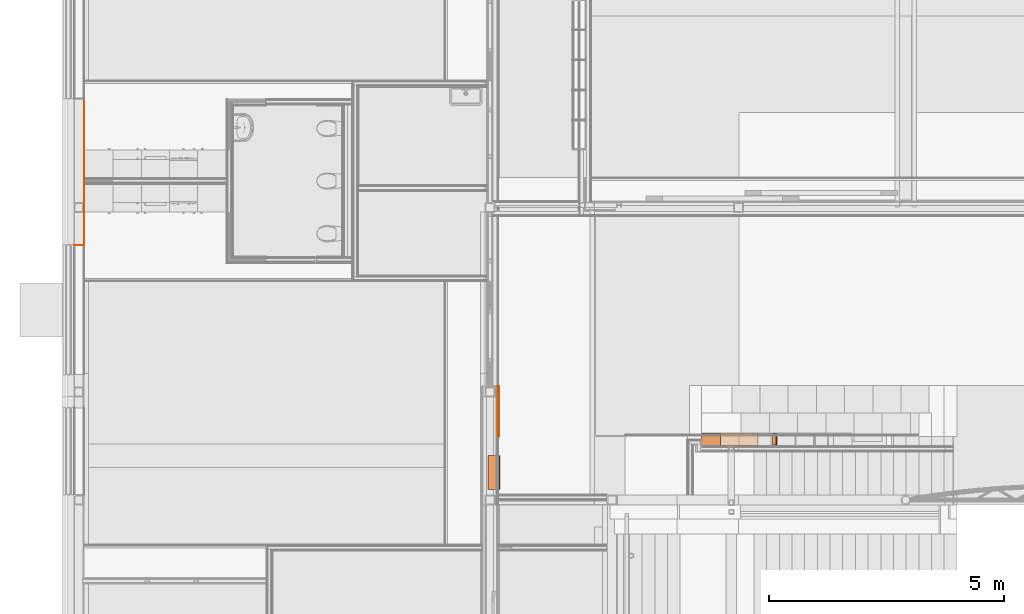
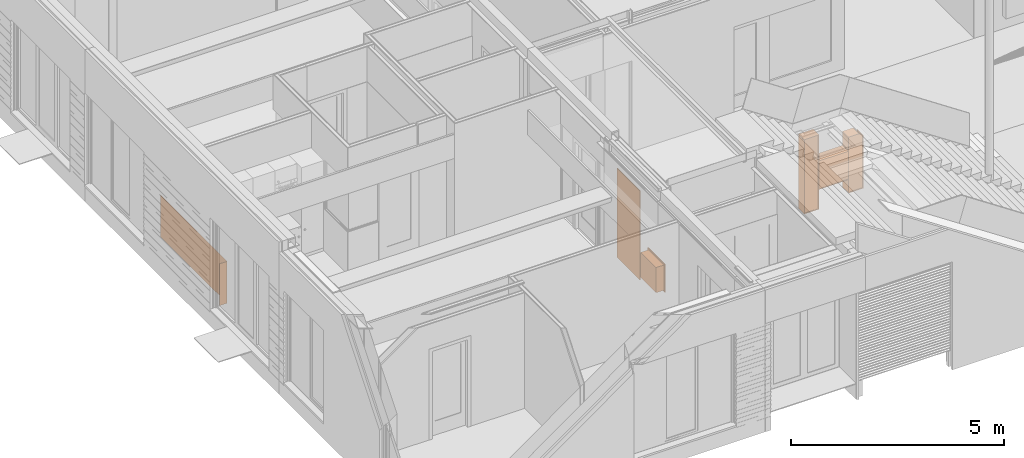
# One storey, part 146 of 165: 7 proxies.
"""IFC2X3 building model written with IfcOpenShell, lengths in millimetres."""

from ifc_helpers import new_model, entity, si_unit, converted_unit, derived_unit, money_unit, direction, frame, origin_with_axes, place, context, subcontext, project, spatial, faceted_brep, material, type_object, element, save


model = new_model("IFC2X3")

# Units and contexts
model_context = context("Model", 3, precision=0.01, world=origin_with_axes(), true_north=direction((0.0, 1.0)))
body_context = subcontext(model_context, "Body", "Model", "MODEL_VIEW")
ifc_project = project(units=[si_unit("LENGTHUNIT", "METRE", prefix="MILLI"), si_unit("AREAUNIT", "SQUARE_METRE"), si_unit("VOLUMEUNIT", "CUBIC_METRE"), converted_unit("PLANEANGLEUNIT", "DEGREE", entity("IfcPlaneAngleMeasure", 0.0174532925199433), si_unit("PLANEANGLEUNIT", "RADIAN"), dimensions=[0, 0, 0, 0, 0, 0, 0]), money_unit("EUR"), converted_unit("TIMEUNIT", "Year", entity("IfcTimeMeasure", 31556926.0), si_unit("TIMEUNIT", "SECOND"), dimensions=[0, 0, 1, 0, 0, 0, 0]), si_unit("MASSUNIT", "GRAM", prefix="KILO"), si_unit("THERMODYNAMICTEMPERATUREUNIT", "DEGREE_CELSIUS"), si_unit("LUMINOUSINTENSITYUNIT", "LUMEN"), si_unit("ENERGYUNIT", "JOULE", prefix="MEGA"), derived_unit("THERMALCONDUCTANCEUNIT", [(si_unit("POWERUNIT", "WATT"), 1), (si_unit("LENGTHUNIT", "METRE"), -1), (si_unit("THERMODYNAMICTEMPERATUREUNIT", "KELVIN"), -1)]), derived_unit("SPECIFICHEATCAPACITYUNIT", [(si_unit("ENERGYUNIT", "JOULE"), 1), (si_unit("MASSUNIT", "GRAM", prefix="KILO"), -1), (si_unit("THERMODYNAMICTEMPERATUREUNIT", "KELVIN"), -1)]), derived_unit("MASSDENSITYUNIT", [(si_unit("MASSUNIT", "GRAM", prefix="KILO"), 1), (si_unit("VOLUMEUNIT", "CUBIC_METRE"), -1)])], contexts=[model_context])

# Site, building, storey
site_placement = place(None, origin_with_axes())
site = spatial("IfcSite", under=ifc_project, at=site_placement, Name="Site", CompositionType="ELEMENT")
building_placement = place(site_placement, origin_with_axes())
building = spatial("IfcBuilding", under=site, at=building_placement, Name="Naam gebouw", CompositionType="ELEMENT")
storey_placement = place(building_placement, origin_with_axes())
storey = spatial("IfcBuildingStorey", under=building, at=storey_placement, Name="Begane grond", CompositionType="ELEMENT", Elevation=0.0)

# Proxies
ifc_material_1 = material(Name="ALG - ALGEMEEN")
building_element_proxy_type_1 = type_object("IfcBuildingElementProxyType", Name="ALG - ALGEMEEN 20", PredefinedType="NOTDEFINED")
proxy_1_placement = place(storey_placement, frame((9025.0, 7004.999999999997, 50.0), z_axis=(0.0, 0.0, 1.0), x_axis=(0.0, -1.0, 0.0)))
element("IfcBuildingElementProxy", 1, at=proxy_1_placement, inside=storey, type_object=building_element_proxy_type_1, material=ifc_material_1, Name="_Wand-x", context=body_context, shape_type="Brep", body=[
    faceted_brep([(0.0, 19.99999999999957, 0.0), (1075.000198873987, 19.99999999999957, 0.0), (1075.000198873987, 0.0, 0.0), (0.0, 0.0, 0.0), (0.0, 19.99999999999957, 2550.0), (1075.000198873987, 19.99999999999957, 2550.0), (1075.000198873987, 0.0, 2550.0), (0.0, 0.0, 2550.0)], [[[0, 1, 2, 3]], [[4, 5, 1, 0]], [[2, 1, 5, 6]], [[3, 2, 6, 7]], [[4, 0, 3, 7]], [[7, 6, 5, 4]]]),
])
ifc_material_2 = material(Name="Hout - Multiplex")
building_element_proxy_type_2 = type_object("IfcBuildingElementProxyType", Name="Hout - Multiplex 1", PredefinedType="NOTDEFINED")
proxy_2_placement = place(storey_placement, frame((214.0000000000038, 10005.0, 3.999999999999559), z_axis=(0.0, 0.0, 1.0), x_axis=(-1.0, 0.0, 0.0)))
element("IfcBuildingElementProxy", 2, at=proxy_2_placement, inside=storey, type_object=building_element_proxy_type_2, material=ifc_material_2, Name="i4 In lagen verlijmd hout_Leeg", context=body_context, shape_type="Brep", body=[
    faceted_brep([(0.0, 0.9999999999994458, 0.0), (213.9999999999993, 0.9999999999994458, 0.0), (213.9999999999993, 0.0, 0.0), (0.0, 0.0, 0.0), (0.0, 0.9999999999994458, 1196.0), (213.9999999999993, 0.9999999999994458, 1196.0), (213.9999999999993, 0.0, 1196.0), (0.0, 0.0, 1196.0)], [[[0, 1, 2, 3]], [[4, 5, 1, 0]], [[2, 1, 5, 6]], [[3, 2, 6, 7]], [[4, 0, 3, 7]], [[7, 6, 5, 4]]]),
])
proxy_3_placement = place(storey_placement, frame((214.0000000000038, 10005.0, 3.999999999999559), z_axis=(0.0, 0.0, 1.0), x_axis=(0.0, 1.0, 0.0)))
element("IfcBuildingElementProxy", 3, at=proxy_3_placement, inside=storey, type_object=building_element_proxy_type_2, material=ifc_material_2, Name="i4 In lagen verlijmd hout_Leeg", context=body_context, shape_type="Brep", body=[
    faceted_brep([(3120.999811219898, -0.9999999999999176, 1196.0), (3120.999811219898, 0.0, 1196.0), (-0.9999999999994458, 0.0, 1196.0), (-0.9999999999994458, -0.9999999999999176, 1196.0), (3120.999811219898, -1.000000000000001, 0.0), (3120.999811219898, 0.0, 0.0), (-0.9999999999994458, 0.0, 0.0), (-0.9999999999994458, -1.000000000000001, 0.0)], [[[0, 1, 2, 3]], [[1, 0, 4, 5]], [[1, 5, 6, 2]], [[7, 3, 2, 6]], [[4, 0, 3, 7]], [[5, 4, 7, 6]]]),
])
building_element_proxy_type_3 = type_object("IfcBuildingElementProxyType", Name="Onderkast recht 26", PredefinedType="NOTDEFINED")
proxy_4_placement = place(storey_placement, frame((13758.57015574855, 5729.997304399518, 539.9999999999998), z_axis=(0.0, 0.0, 1.0), x_axis=(-1.0, 0.0, 0.0)))
element("IfcBuildingElementProxy", 4, at=proxy_4_placement, inside=storey, type_object=building_element_proxy_type_3, Name="_Leeg", context=body_context, shape_type="Brep", body=[
    faceted_brep([(18.0, -280.0, 561.9999999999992), (382.0, -280.0, 561.9999999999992), (382.0, -280.0, 579.9999999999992), (18.0, -280.0, 579.9999999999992), (18.0, -18.0, 561.9999999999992), (382.0, -18.0, 561.9999999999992), (382.0, -18.0, 579.9999999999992), (18.0, -18.0, 579.9999999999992)], [[[0, 1, 2, 3]], [[0, 4, 5, 1]], [[1, 5, 6, 2]], [[3, 2, 6, 7]], [[4, 0, 3, 7]], [[5, 4, 7, 6]]]),
    faceted_brep([(18.0, -280.0, 1362.0), (382.0, -280.0, 1362.0), (382.0, -280.0, 1380.0), (18.0, -280.0, 1380.0), (18.0, -18.0, 1362.0), (382.0, -18.0, 1362.0), (382.0, -18.0, 1380.0), (18.0, -18.0, 1380.0)], [[[0, 1, 2, 3]], [[0, 4, 5, 1]], [[1, 5, 6, 2]], [[3, 2, 6, 7]], [[4, 0, 3, 7]], [[5, 4, 7, 6]]]),
    faceted_brep([(18.0, -280.0, 0.0), (382.0, -280.0, 0.0), (382.0, -280.0, 18.0), (18.0, -280.0, 18.0), (18.0, 0.0, 0.0), (382.0, 0.0, 0.0), (382.0, 0.0, 18.0), (18.0, 0.0, 18.0)], [[[0, 1, 2, 3]], [[0, 4, 5, 1]], [[1, 5, 6, 2]], [[3, 2, 6, 7]], [[4, 0, 3, 7]], [[5, 4, 7, 6]]]),
    faceted_brep([(18.0, -280.0, 2104.999999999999), (382.0, -280.0, 2104.999999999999), (382.0, -280.0, 2122.999999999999), (18.0, -280.0, 2122.999999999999), (18.0, 0.0, 2104.999999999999), (382.0, 0.0, 2104.999999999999), (382.0, 0.0, 2122.999999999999), (18.0, 0.0, 2122.999999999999)], [[[0, 1, 2, 3]], [[0, 4, 5, 1]], [[1, 5, 6, 2]], [[3, 2, 6, 7]], [[4, 0, 3, 7]], [[5, 4, 7, 6]]]),
    faceted_brep([(0.0, 0.0, 0.0), (0.0, -280.0, 0.0), (0.0, -280.0, 2122.999999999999), (0.0, 0.0, 2122.999999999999), (18.0, 0.0, 0.0), (18.0, -280.0, 0.0), (18.0, -280.0, 2122.999999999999), (18.0, 0.0, 2122.999999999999)], [[[0, 1, 2, 3]], [[0, 4, 5, 1]], [[1, 5, 6, 2]], [[3, 2, 6, 7]], [[4, 0, 3, 7]], [[5, 4, 7, 6]]]),
    faceted_brep([(400.0, -280.0, 0.0), (400.0, 0.0, 0.0), (400.0, 0.0, 2122.999999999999), (400.0, -280.0, 2122.999999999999), (382.0, -280.0, 0.0), (382.0, 0.0, 0.0), (382.0, 0.0, 2122.999999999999), (382.0, -280.0, 2122.999999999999)], [[[0, 1, 2, 3]], [[0, 4, 5, 1]], [[1, 5, 6, 2]], [[3, 2, 6, 7]], [[4, 0, 3, 7]], [[5, 4, 7, 6]]]),
    faceted_brep([(382.0, -9.0, 18.0), (18.00000000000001, -9.0, 18.0), (18.00000000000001, -9.0, 2104.999999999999), (382.0, -9.0, 2104.999999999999), (382.0, -18.0, 18.0), (18.00000000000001, -18.0, 18.0), (18.00000000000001, -18.0, 2104.999999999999), (382.0, -18.0, 2104.999999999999)], [[[0, 1, 2, 3]], [[0, 4, 5, 1]], [[1, 5, 6, 2]], [[3, 2, 6, 7]], [[4, 0, 3, 7]], [[5, 4, 7, 6]]]),
])
proxy_5_placement = place(storey_placement, frame((14958.57015574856, 5729.997304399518, 719.9999999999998), z_axis=(0.0, 0.0, 1.0), x_axis=(-1.0, 0.0, 0.0)))
element("IfcBuildingElementProxy", 5, at=proxy_5_placement, inside=storey, type_object=building_element_proxy_type_3, Name="_Leeg", context=body_context, shape_type="Brep", body=[
    faceted_brep([(18.00000000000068, -280.0000000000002, 799.9999999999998), (18.00000000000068, -280.0000000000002, 782.0), (381.9999999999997, -280.0000000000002, 782.0), (381.9999999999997, -280.0000000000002, 799.9999999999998), (18.00000000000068, -17.99999999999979, 799.9999999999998), (18.00000000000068, -17.99999999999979, 782.0), (381.9999999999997, -17.99999999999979, 782.0), (381.9999999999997, -17.99999999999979, 799.9999999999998)], [[[0, 1, 2, 3]], [[4, 5, 1, 0]], [[2, 1, 5, 6]], [[3, 2, 6, 7]], [[4, 0, 3, 7]], [[7, 6, 5, 4]]]),
    faceted_brep([(18.00000000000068, -280.0000000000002, 1200.0), (18.00000000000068, -280.0000000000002, 1182.0), (381.9999999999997, -280.0000000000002, 1182.0), (381.9999999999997, -280.0000000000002, 1200.0), (18.00000000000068, -17.99999999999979, 1200.0), (18.00000000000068, -17.99999999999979, 1182.0), (381.9999999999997, -17.99999999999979, 1182.0), (381.9999999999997, -17.99999999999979, 1200.0)], [[[0, 1, 2, 3]], [[4, 5, 1, 0]], [[2, 1, 5, 6]], [[3, 2, 6, 7]], [[4, 0, 3, 7]], [[7, 6, 5, 4]]]),
    faceted_brep([(96.55549019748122, -17.99999999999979, 1582.0), (18.00000000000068, -17.99999999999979, 1529.62967320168), (18.00000000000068, -17.99999999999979, 18.00000000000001), (381.9999999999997, -17.99999999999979, 18.00000000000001), (381.9999999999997, -17.99999999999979, 1582.0), (18.00000000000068, -9.000000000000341, 1529.629673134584), (96.55549029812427, -9.000000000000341, 1582.0), (18.00000000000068, -9.000000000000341, 18.00000000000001), (381.9999999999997, -9.000000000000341, 18.00000000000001), (381.9999999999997, -9.000000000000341, 1582.0)], [[[0, 1, 2, 3, 4]], [[5, 1, 0, 6]], [[1, 5, 7, 2]], [[7, 8, 3, 2]], [[4, 3, 8, 9]], [[6, 0, 4, 9]], [[5, 6, 9, 8, 7]]]),
    faceted_brep([(123.5554872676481, -279.9999916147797, 1599.999999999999), (96.55548726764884, -279.9999913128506, 1581.999999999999), (381.9999999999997, -280.0000000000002, 1582.0), (381.9999999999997, -280.0000000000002, 1600.0), (96.55549039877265, 0.0001069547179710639, 1582.000000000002), (123.5554903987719, 0.0001066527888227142, 1600.000000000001), (381.9999999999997, 0.0, 1582.0), (381.9999999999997, 0.0, 1600.0)], [[[0, 1, 2, 3]], [[4, 1, 0, 5]], [[1, 4, 6, 2]], [[3, 2, 6, 7]], [[5, 0, 3, 7]], [[4, 5, 7, 6]]]),
    faceted_brep([(18.00000000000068, -279.9999904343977, 1529.629675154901), (0.0, -279.9999902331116, 1517.6296751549), (0.0, -280.0000000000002, 0.0), (18.00000000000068, -280.0000000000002, 0.0), (0.0, 0.0001080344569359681, 1517.629673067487), (18.00000000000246, 0.0001078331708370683, 1529.629673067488), (0.0, 0.0, 0.0), (18.00000000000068, 0.0, 0.0)], [[[0, 1, 2, 3]], [[4, 1, 0, 5]], [[1, 4, 6, 2]], [[2, 6, 7, 3]], [[5, 0, 3, 7]], [[4, 5, 7, 6]]]),
    faceted_brep([(400.0000000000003, -280.0000000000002, 1600.0), (400.0000000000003, -280.0000000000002, 0.0), (400.0000000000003, 0.0, 0.0), (400.0000000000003, 0.0, 1600.0), (381.9999999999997, -280.0000000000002, 1600.0), (381.9999999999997, -280.0000000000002, 0.0), (381.9999999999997, 0.0, 0.0), (381.9999999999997, 0.0, 1600.0)], [[[0, 1, 2, 3]], [[4, 5, 1, 0]], [[2, 1, 5, 6]], [[3, 2, 6, 7]], [[4, 0, 3, 7]], [[7, 6, 5, 4]]]),
    faceted_brep([(18.00000000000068, -280.0000000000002, 382.0000000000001), (381.9999999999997, -280.0000000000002, 382.0000000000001), (381.9999999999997, -280.0000000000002, 399.9999999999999), (18.00000000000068, -280.0000000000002, 399.9999999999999), (18.00000000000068, -17.99999999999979, 382.0000000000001), (381.9999999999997, -17.99999999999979, 382.0000000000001), (381.9999999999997, -17.99999999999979, 399.9999999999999), (18.00000000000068, -17.99999999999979, 399.9999999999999)], [[[0, 1, 2, 3]], [[0, 4, 5, 1]], [[1, 5, 6, 2]], [[3, 2, 6, 7]], [[4, 0, 3, 7]], [[5, 4, 7, 6]]]),
    faceted_brep([(18.00000000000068, -280.0000000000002, 0.0), (381.9999999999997, -280.0000000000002, 0.0), (381.9999999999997, -280.0000000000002, 18.00000000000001), (18.00000000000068, -280.0000000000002, 18.00000000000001), (18.00000000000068, 0.0, 0.0), (381.9999999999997, 0.0, 0.0), (381.9999999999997, 0.0, 18.00000000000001), (18.00000000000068, 0.0, 18.00000000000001)], [[[0, 1, 2, 3]], [[0, 4, 5, 1]], [[1, 5, 6, 2]], [[3, 2, 6, 7]], [[4, 0, 3, 7]], [[5, 4, 7, 6]]]),
])
proxy_6_placement = place(storey_placement, frame((14558.57015574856, 5729.997304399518, 1102.0), z_axis=(0.0, 0.0, 1.0), x_axis=(-1.0, 0.0, 0.0)))
element("IfcBuildingElementProxy", 6, at=proxy_6_placement, inside=storey, type_object=building_element_proxy_type_3, Name="_Leeg", context=body_context, shape_type="Brep", body=[
    faceted_brep([(18.0, -280.0, 0.0), (781.9999999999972, -280.0, 0.0), (781.9999999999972, -280.0, 18.0), (18.0, -280.0, 18.0), (18.0, 0.0, 0.0), (781.9999999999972, 0.0, 0.0), (781.9999999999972, 0.0, 18.0), (18.0, 0.0, 18.0)], [[[0, 1, 2, 3]], [[0, 4, 5, 1]], [[1, 5, 6, 2]], [[3, 2, 6, 7]], [[4, 0, 3, 7]], [[5, 4, 7, 6]]]),
    faceted_brep([(18.0, -280.0, 799.9999999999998), (781.9999999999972, -280.0, 799.9999999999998), (781.9999999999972, -280.0, 817.9999999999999), (18.0, -280.0, 817.9999999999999), (18.0, 0.0, 799.9999999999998), (781.9999999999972, 0.0, 799.9999999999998), (781.9999999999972, 0.0, 817.9999999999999), (18.0, 0.0, 817.9999999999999)], [[[0, 1, 2, 3]], [[0, 4, 5, 1]], [[1, 5, 6, 2]], [[3, 2, 6, 7]], [[4, 0, 3, 7]], [[5, 4, 7, 6]]]),
    faceted_brep([(0.0, 0.0, 0.0), (0.0, -280.0, 0.0), (0.0, -280.0, 817.9999999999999), (0.0, 0.0, 817.9999999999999), (18.0, 0.0, 0.0), (18.0, -280.0, 0.0), (18.0, -280.0, 817.9999999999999), (18.0, 0.0, 817.9999999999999)], [[[0, 1, 2, 3]], [[0, 4, 5, 1]], [[1, 5, 6, 2]], [[3, 2, 6, 7]], [[4, 0, 3, 7]], [[5, 4, 7, 6]]]),
    faceted_brep([(799.9999999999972, -280.0, 0.0), (799.9999999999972, 0.0, 0.0), (799.9999999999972, 0.0, 817.9999999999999), (799.9999999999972, -280.0, 817.9999999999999), (781.9999999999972, -280.0, 0.0), (781.9999999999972, 0.0, 0.0), (781.9999999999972, 0.0, 817.9999999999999), (781.9999999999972, -280.0, 817.9999999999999)], [[[0, 1, 2, 3]], [[0, 4, 5, 1]], [[1, 5, 6, 2]], [[3, 2, 6, 7]], [[4, 0, 3, 7]], [[5, 4, 7, 6]]]),
    faceted_brep([(781.9999999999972, -9.0, 18.0), (18.00000000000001, -9.0, 18.0), (18.00000000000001, -9.0, 799.9999999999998), (781.9999999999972, -9.0, 799.9999999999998), (781.9999999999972, -18.0, 18.0), (18.00000000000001, -18.0, 18.0), (18.00000000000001, -18.0, 799.9999999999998), (781.9999999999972, -18.0, 799.9999999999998)], [[[0, 1, 2, 3]], [[0, 4, 5, 1]], [[1, 5, 6, 2]], [[3, 2, 6, 7]], [[4, 0, 3, 7]], [[5, 4, 7, 6]]]),
])
building_element_proxy_type_4 = type_object("IfcBuildingElementProxyType", Name="Brandslang haspelkast 26", PredefinedType="NOTDEFINED")
proxy_7_placement = place(storey_placement, frame((9065.0, 4765.747497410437, 400.0000000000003), z_axis=(0.0, 0.0, 1.0), x_axis=(0.0, 1.0, 0.0)))
element("IfcBuildingElementProxy", 7, at=proxy_7_placement, inside=storey, type_object=building_element_proxy_type_4, Name="_object-x", context=body_context, shape_type="Brep", body=[
    faceted_brep([(0.0, 40.00000000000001, 0.0), (800.0, 40.00000000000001, 0.0), (800.0, 20.00000000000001, 0.0), (0.0, 20.00000000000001, 0.0), (0.0, 40.00000000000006, 800.0), (800.0, 40.00000000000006, 800.0), (60.0, 40.00000000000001, 60.00000000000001), (740.0, 40.00000000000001, 60.00000000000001), (740.0, 40.00000000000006, 740.0), (60.0, 40.00000000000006, 740.0), (800.0, 20.00000000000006, 800.0), (0.0, 20.00000000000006, 800.0), (60.0, 20.00000000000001, 60.00000000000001), (60.0, 20.00000000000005, 740.0), (740.0, 20.00000000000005, 740.0), (740.0, 20.00000000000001, 60.00000000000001)], [[[0, 1, 2, 3]], [[0, 4, 5, 1], [6, 7, 8, 9]], [[1, 5, 10, 2]], [[3, 2, 10, 11], [12, 13, 14, 15]], [[4, 0, 3, 11]], [[5, 4, 11, 10]], [[7, 6, 12, 15]], [[8, 7, 15, 14]], [[9, 8, 14, 13]], [[6, 9, 13, 12]]]),
    faceted_brep([(39.99999999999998, 20.00000000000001, 40.00000000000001), (760.0, 20.00000000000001, 40.00000000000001), (760.0, 0.0, 40.00000000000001), (39.99999999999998, 0.0, 40.00000000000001), (39.99999999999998, 20.00000000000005, 760.0), (760.0, 20.00000000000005, 760.0), (80.00000000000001, 20.00000000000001, 80.0), (720.0, 20.00000000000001, 80.0), (720.0, 20.00000000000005, 720.0000000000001), (80.00000000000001, 20.00000000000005, 720.0000000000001), (760.0, 0.0, 760.0), (39.99999999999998, 0.0, 760.0), (80.00000000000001, 0.0, 80.0), (80.00000000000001, 0.0, 720.0000000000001), (720.0, 0.0, 720.0000000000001), (720.0, 0.0, 80.0)], [[[0, 1, 2, 3]], [[0, 4, 5, 1], [6, 7, 8, 9]], [[1, 5, 10, 2]], [[3, 2, 10, 11], [12, 13, 14, 15]], [[4, 0, 3, 11]], [[5, 4, 11, 10]], [[7, 6, 12, 15]], [[8, 7, 15, 14]], [[9, 8, 14, 13]], [[6, 9, 13, 12]]]),
    faceted_brep([(39.99999999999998, 230.0, 39.99999999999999), (760.0, 230.0, 39.99999999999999), (760.0, 39.99999999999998, 40.00000000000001), (39.99999999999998, 39.99999999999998, 40.00000000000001), (39.99999999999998, 230.0, 760.0), (760.0, 230.0, 760.0), (60.0, 230.0, 59.99999999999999), (740.0, 230.0, 59.99999999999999), (740.0, 230.0, 740.0), (60.0, 230.0, 740.0), (760.0, 40.00000000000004, 760.0), (39.99999999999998, 40.00000000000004, 760.0), (60.0, 39.99999999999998, 60.00000000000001), (60.0, 40.00000000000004, 740.0), (740.0, 40.00000000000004, 740.0), (740.0, 39.99999999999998, 60.00000000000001)], [[[0, 1, 2, 3]], [[0, 4, 5, 1], [6, 7, 8, 9]], [[1, 5, 10, 2]], [[3, 2, 10, 11], [12, 13, 14, 15]], [[4, 0, 3, 11]], [[5, 4, 11, 10]], [[7, 6, 12, 15]], [[8, 7, 15, 14]], [[9, 8, 14, 13]], [[6, 9, 13, 12]]]),
    faceted_brep([(39.99999999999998, 250.0, 39.99999999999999), (760.0, 250.0, 39.99999999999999), (760.0, 230.0, 39.99999999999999), (39.99999999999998, 230.0, 39.99999999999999), (39.99999999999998, 250.0000000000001, 760.0), (760.0, 250.0000000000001, 760.0), (760.0, 230.0, 760.0), (39.99999999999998, 230.0, 760.0)], [[[0, 1, 2, 3]], [[0, 4, 5, 1]], [[1, 5, 6, 2]], [[3, 2, 6, 7]], [[4, 0, 3, 7]], [[5, 4, 7, 6]]]),
    faceted_brep([(80.00000000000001, 15.00000000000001, 80.0), (720.0, 15.00000000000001, 80.0), (720.0, 5.000000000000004, 80.0), (80.00000000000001, 5.000000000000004, 80.0), (80.00000000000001, 15.00000000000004, 720.0000000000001), (720.0, 15.00000000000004, 720.0000000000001), (720.0, 5.000000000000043, 720.0000000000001), (80.00000000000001, 5.000000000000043, 720.0000000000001)], [[[0, 1, 2, 3]], [[0, 4, 5, 1]], [[1, 5, 6, 2]], [[3, 2, 6, 7]], [[4, 0, 3, 7]], [[5, 4, 7, 6]]]),
    faceted_brep([(749.6592582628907, 0.0, 397.4118095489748), (748.6602540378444, 0.0, 395.0), (747.0710678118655, 0.0, 392.9289321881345), (745.0, 0.0, 391.3397459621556), (742.5881904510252, 0.0, 390.3407417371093), (740.0, 0.0, 390.0), (737.4118095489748, 0.0, 390.3407417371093), (735.0, 0.0, 391.3397459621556), (732.9289321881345, 0.0, 392.9289321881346), (731.3397459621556, 0.0, 395.0), (730.3407417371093, 0.0, 397.4118095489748), (730.0, 0.0, 400.0), (730.3407417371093, 0.0, 402.5881904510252), (731.3397459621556, 0.0, 405.0), (732.9289321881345, 0.0, 407.0710678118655), (735.0, 0.0, 408.6602540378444), (737.4118095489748, 0.0, 409.6592582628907), (740.0, 0.0, 410.0000000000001), (742.5881904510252, 0.0, 409.6592582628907), (745.0, 0.0, 408.6602540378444), (747.0710678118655, 0.0, 407.0710678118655), (748.6602540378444, 0.0, 405.0), (749.6592582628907, 0.0, 402.5881904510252), (750.0, 0.0, 400.0), (749.6592582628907, -1.999999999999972, 397.4118095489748), (748.6602540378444, -1.999999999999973, 395.0), (747.0710678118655, -1.999999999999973, 392.9289321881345), (745.0, -1.999999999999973, 391.3397459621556), (742.5881904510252, -1.999999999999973, 390.3407417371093), (740.0, -1.999999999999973, 390.0), (737.4118095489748, -1.999999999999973, 390.3407417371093), (735.0, -1.999999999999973, 391.3397459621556), (732.9289321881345, -1.999999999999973, 392.9289321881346), (731.3397459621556, -1.999999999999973, 395.0), (730.3407417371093, -1.999999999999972, 397.4118095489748), (730.0, -1.999999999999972, 400.0), (730.3407417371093, -1.999999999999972, 402.5881904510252), (731.3397459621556, -1.999999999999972, 405.0), (732.9289321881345, -1.999999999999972, 407.0710678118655), (735.0, -1.999999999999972, 408.6602540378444), (737.4118095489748, -1.999999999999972, 409.6592582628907), (740.0, -1.999999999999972, 410.0000000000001), (742.5881904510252, -1.999999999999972, 409.6592582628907), (745.0, -1.999999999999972, 408.6602540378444), (747.0710678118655, -1.999999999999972, 407.0710678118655), (748.6602540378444, -1.999999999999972, 405.0), (749.6592582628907, -1.999999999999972, 402.5881904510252), (750.0, -1.999999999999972, 400.0)], [[[0, 1, 2, 3, 4, 5, 6, 7, 8, 9, 10, 11, 12, 13, 14, 15, 16, 17, 18, 19, 20, 21, 22, 23]], [[1, 0, 24, 25]], [[2, 1, 25, 26]], [[3, 2, 26, 27]], [[4, 3, 27, 28]], [[5, 4, 28, 29]], [[6, 5, 29, 30]], [[7, 6, 30, 31]], [[8, 7, 31, 32]], [[9, 8, 32, 33]], [[10, 9, 33, 34]], [[11, 10, 34, 35]], [[12, 11, 35, 36]], [[13, 12, 36, 37]], [[14, 13, 37, 38]], [[15, 14, 38, 39]], [[16, 15, 39, 40]], [[17, 16, 40, 41]], [[18, 17, 41, 42]], [[19, 18, 42, 43]], [[20, 19, 43, 44]], [[21, 20, 44, 45]], [[22, 21, 45, 46]], [[23, 22, 46, 47]], [[0, 23, 47, 24]], [[24, 47, 46, 45, 44, 43, 42, 41, 40, 39, 38, 37, 36, 35, 34, 33, 32, 31, 30, 29, 28, 27, 26, 25]]]),
    faceted_brep([(39.89777747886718, 16.22354286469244, 80.0), (39.59807621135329, 15.5, 80.0), (39.12132034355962, 14.87867965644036, 80.0), (38.49999999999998, 14.40192378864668, 80.0), (37.77645713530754, 14.10222252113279, 80.0), (36.99999999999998, 14.0, 80.0), (36.22354286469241, 14.1022225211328, 80.0), (35.49999999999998, 14.40192378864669, 80.0), (34.87867965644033, 14.87867965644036, 80.0), (34.40192378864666, 15.5, 80.0), (34.10222252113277, 16.22354286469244, 80.0), (33.99999999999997, 17.0, 80.0), (34.10222252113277, 17.77645713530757, 80.0), (34.40192378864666, 18.5, 80.0), (34.87867965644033, 19.12132034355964, 80.0), (35.49999999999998, 19.59807621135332, 80.0), (36.22354286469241, 19.89777747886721, 80.0), (36.99999999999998, 20.0, 80.0), (37.77645713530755, 19.89777747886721, 80.0), (38.49999999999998, 19.59807621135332, 80.0), (39.12132034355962, 19.12132034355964, 80.0), (39.59807621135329, 18.5, 80.0), (39.89777747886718, 17.77645713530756, 80.0), (39.99999999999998, 17.0, 80.0), (39.89777747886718, 16.22354286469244, 120.0), (39.59807621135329, 15.5, 120.0), (39.12132034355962, 14.87867965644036, 120.0), (38.49999999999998, 14.40192378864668, 120.0), (37.77645713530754, 14.10222252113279, 120.0), (36.99999999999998, 14.0, 120.0), (36.22354286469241, 14.1022225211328, 120.0), (35.49999999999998, 14.40192378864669, 120.0), (34.87867965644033, 14.87867965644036, 120.0), (34.40192378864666, 15.5, 120.0), (34.10222252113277, 16.22354286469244, 120.0), (33.99999999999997, 17.0, 120.0), (34.10222252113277, 17.77645713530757, 120.0), (34.40192378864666, 18.5, 120.0), (34.87867965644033, 19.12132034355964, 120.0), (35.49999999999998, 19.59807621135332, 120.0), (36.22354286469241, 19.89777747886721, 120.0), (36.99999999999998, 20.0, 120.0), (37.77645713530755, 19.89777747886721, 120.0), (38.49999999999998, 19.59807621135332, 120.0), (39.12132034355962, 19.12132034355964, 120.0), (39.59807621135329, 18.5, 120.0), (39.89777747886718, 17.77645713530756, 120.0), (39.99999999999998, 17.0, 120.0)], [[[0, 1, 2, 3, 4, 5, 6, 7, 8, 9, 10, 11, 12, 13, 14, 15, 16, 17, 18, 19, 20, 21, 22, 23]], [[1, 0, 24, 25]], [[2, 1, 25, 26]], [[3, 2, 26, 27]], [[4, 3, 27, 28]], [[5, 4, 28, 29]], [[6, 5, 29, 30]], [[7, 6, 30, 31]], [[8, 7, 31, 32]], [[9, 8, 32, 33]], [[10, 9, 33, 34]], [[11, 10, 34, 35]], [[12, 11, 35, 36]], [[13, 12, 36, 37]], [[14, 13, 37, 38]], [[15, 14, 38, 39]], [[16, 15, 39, 40]], [[17, 16, 40, 41]], [[18, 17, 41, 42]], [[19, 18, 42, 43]], [[20, 19, 43, 44]], [[21, 20, 44, 45]], [[22, 21, 45, 46]], [[23, 22, 46, 47]], [[0, 23, 47, 24]], [[24, 47, 46, 45, 44, 43, 42, 41, 40, 39, 38, 37, 36, 35, 34, 33, 32, 31, 30, 29, 28, 27, 26, 25]]]),
    faceted_brep([(39.89777747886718, 16.22354286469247, 680.0), (39.59807621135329, 15.50000000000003, 680.0), (39.12132034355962, 14.87867965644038, 680.0), (38.49999999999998, 14.40192378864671, 680.0), (37.77645713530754, 14.10222252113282, 680.0), (36.99999999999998, 14.00000000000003, 680.0), (36.22354286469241, 14.10222252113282, 680.0), (35.49999999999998, 14.40192378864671, 680.0), (34.87867965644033, 14.87867965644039, 680.0), (34.40192378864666, 15.50000000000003, 680.0), (34.10222252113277, 16.22354286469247, 680.0), (33.99999999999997, 17.00000000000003, 680.0), (34.10222252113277, 17.7764571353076, 680.0), (34.40192378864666, 18.50000000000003, 680.0), (34.87867965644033, 19.12132034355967, 680.0), (35.49999999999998, 19.59807621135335, 680.0), (36.22354286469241, 19.89777747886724, 680.0), (36.99999999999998, 20.00000000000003, 680.0), (37.77645713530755, 19.89777747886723, 680.0), (38.49999999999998, 19.59807621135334, 680.0), (39.12132034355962, 19.12132034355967, 680.0), (39.59807621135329, 18.50000000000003, 680.0), (39.89777747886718, 17.77645713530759, 680.0), (39.99999999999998, 17.00000000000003, 680.0), (39.89777747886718, 16.22354286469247, 720.0000000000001), (39.59807621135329, 15.50000000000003, 720.0000000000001), (39.12132034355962, 14.87867965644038, 720.0000000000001), (38.49999999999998, 14.40192378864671, 720.0000000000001), (37.77645713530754, 14.10222252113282, 720.0000000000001), (36.99999999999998, 14.00000000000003, 720.0000000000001), (36.22354286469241, 14.10222252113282, 720.0000000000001), (35.49999999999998, 14.40192378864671, 720.0000000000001), (34.87867965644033, 14.87867965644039, 720.0000000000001), (34.40192378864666, 15.50000000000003, 720.0000000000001), (34.10222252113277, 16.22354286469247, 720.0000000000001), (33.99999999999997, 17.00000000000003, 720.0000000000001), (34.10222252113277, 17.7764571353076, 720.0000000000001), (34.40192378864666, 18.50000000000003, 720.0000000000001), (34.87867965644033, 19.12132034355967, 720.0000000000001), (35.49999999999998, 19.59807621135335, 720.0000000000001), (36.22354286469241, 19.89777747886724, 720.0000000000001), (36.99999999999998, 20.00000000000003, 720.0000000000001), (37.77645713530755, 19.89777747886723, 720.0000000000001), (38.49999999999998, 19.59807621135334, 720.0000000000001), (39.12132034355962, 19.12132034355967, 720.0000000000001), (39.59807621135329, 18.50000000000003, 720.0000000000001), (39.89777747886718, 17.77645713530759, 720.0000000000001), (39.99999999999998, 17.00000000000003, 720.0000000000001)], [[[0, 1, 2, 3, 4, 5, 6, 7, 8, 9, 10, 11, 12, 13, 14, 15, 16, 17, 18, 19, 20, 21, 22, 23]], [[1, 0, 24, 25]], [[2, 1, 25, 26]], [[3, 2, 26, 27]], [[4, 3, 27, 28]], [[5, 4, 28, 29]], [[6, 5, 29, 30]], [[7, 6, 30, 31]], [[8, 7, 31, 32]], [[9, 8, 32, 33]], [[10, 9, 33, 34]], [[11, 10, 34, 35]], [[12, 11, 35, 36]], [[13, 12, 36, 37]], [[14, 13, 37, 38]], [[15, 14, 38, 39]], [[16, 15, 39, 40]], [[17, 16, 40, 41]], [[18, 17, 41, 42]], [[19, 18, 42, 43]], [[20, 19, 43, 44]], [[21, 20, 44, 45]], [[22, 21, 45, 46]], [[23, 22, 46, 47]], [[0, 23, 47, 24]], [[24, 47, 46, 45, 44, 43, 42, 41, 40, 39, 38, 37, 36, 35, 34, 33, 32, 31, 30, 29, 28, 27, 26, 25]]]),
])

save(model, "model.ifc")
